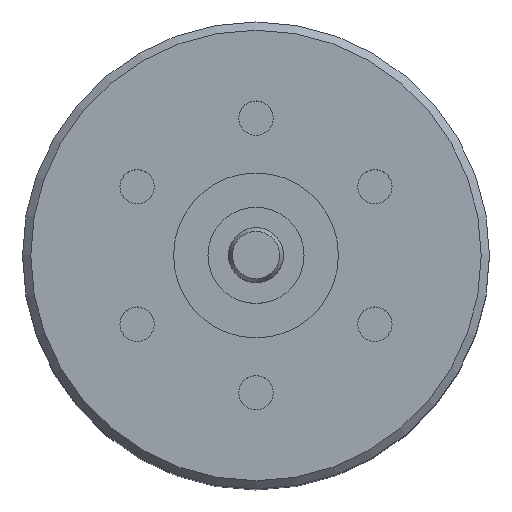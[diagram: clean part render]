
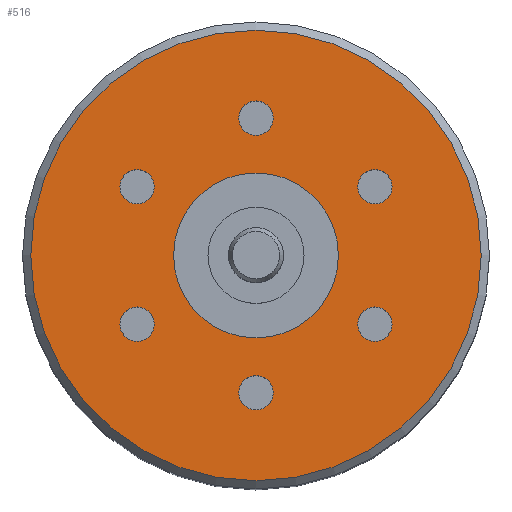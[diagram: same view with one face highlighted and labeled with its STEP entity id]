
A CAD part, top view. The second image highlights one B-rep face of the part: STEP entity #516.
In plain terms, the highlighted planar face has unit normal (0, 0, 1).
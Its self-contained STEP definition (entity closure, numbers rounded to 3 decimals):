
#516=ADVANCED_FACE('AS_FLANSCH',(#687,#688,#689,#690,#691,#692,#693,#694),
#621,.T.);
#621=PLANE('',#2057);
#687=FACE_BOUND('',#794,.T.);
#688=FACE_BOUND('',#795,.T.);
#689=FACE_BOUND('',#796,.T.);
#690=FACE_BOUND('',#797,.T.);
#691=FACE_BOUND('',#798,.T.);
#692=FACE_BOUND('',#799,.T.);
#693=FACE_BOUND('',#800,.T.);
#694=FACE_BOUND('',#801,.T.);
#794=EDGE_LOOP('',(#1081));
#795=EDGE_LOOP('',(#1082));
#796=EDGE_LOOP('',(#1083));
#797=EDGE_LOOP('',(#1084));
#798=EDGE_LOOP('',(#1085));
#799=EDGE_LOOP('',(#1086));
#800=EDGE_LOOP('',(#1087));
#801=EDGE_LOOP('',(#1088));
#1081=ORIENTED_EDGE('',*,*,#1743,.T.);
#1082=ORIENTED_EDGE('',*,*,#1744,.T.);
#1083=ORIENTED_EDGE('',*,*,#1745,.T.);
#1084=ORIENTED_EDGE('',*,*,#1746,.T.);
#1085=ORIENTED_EDGE('',*,*,#1747,.T.);
#1086=ORIENTED_EDGE('',*,*,#1748,.T.);
#1087=ORIENTED_EDGE('',*,*,#1749,.T.);
#1088=ORIENTED_EDGE('',*,*,#1750,.F.);
#1545=VERTEX_POINT('',#3186);
#1546=VERTEX_POINT('',#3188);
#1547=VERTEX_POINT('',#3190);
#1548=VERTEX_POINT('',#3192);
#1549=VERTEX_POINT('',#3194);
#1550=VERTEX_POINT('',#3196);
#1551=VERTEX_POINT('',#3198);
#1552=VERTEX_POINT('',#3200);
#1743=EDGE_CURVE('',#1545,#1545,#1915,.T.);
#1744=EDGE_CURVE('',#1546,#1546,#1916,.T.);
#1745=EDGE_CURVE('',#1547,#1547,#1917,.T.);
#1746=EDGE_CURVE('',#1548,#1548,#1918,.T.);
#1747=EDGE_CURVE('',#1549,#1549,#1919,.T.);
#1748=EDGE_CURVE('',#1550,#1550,#1920,.T.);
#1749=EDGE_CURVE('',#1551,#1551,#1921,.T.);
#1750=EDGE_CURVE('',#1552,#1552,#1922,.T.);
#1915=CIRCLE('',#2049,0.625);
#1916=CIRCLE('',#2050,0.625);
#1917=CIRCLE('',#2051,0.625);
#1918=CIRCLE('',#2052,0.625);
#1919=CIRCLE('',#2053,0.625);
#1920=CIRCLE('',#2054,0.625);
#1921=CIRCLE('',#2055,8.2);
#1922=CIRCLE('',#2056,3.);
#2049=AXIS2_PLACEMENT_3D('',#3185,#2411,#2412);
#2050=AXIS2_PLACEMENT_3D('',#3187,#2413,#2414);
#2051=AXIS2_PLACEMENT_3D('',#3189,#2415,#2416);
#2052=AXIS2_PLACEMENT_3D('',#3191,#2417,#2418);
#2053=AXIS2_PLACEMENT_3D('',#3193,#2419,#2420);
#2054=AXIS2_PLACEMENT_3D('',#3195,#2421,#2422);
#2055=AXIS2_PLACEMENT_3D('',#3197,#2423,#2424);
#2056=AXIS2_PLACEMENT_3D('',#3199,#2425,#2426);
#2057=AXIS2_PLACEMENT_3D('',#3201,#2427,#2428);
#2411=DIRECTION('',(0.,0.,-1.));
#2412=DIRECTION('',(-0.5,0.866,0.));
#2413=DIRECTION('',(0.,0.,-1.));
#2414=DIRECTION('',(0.5,0.866,0.));
#2415=DIRECTION('',(0.,0.,-1.));
#2416=DIRECTION('',(1.,0.,0.));
#2417=DIRECTION('',(0.,0.,-1.));
#2418=DIRECTION('',(0.5,-0.866,0.));
#2419=DIRECTION('',(0.,0.,-1.));
#2420=DIRECTION('',(-0.5,-0.866,0.));
#2421=DIRECTION('',(0.,0.,-1.));
#2422=DIRECTION('',(-1.,0.,0.));
#2423=DIRECTION('',(0.,0.,1.));
#2424=DIRECTION('',(1.,0.,0.));
#2425=DIRECTION('',(0.,0.,1.));
#2426=DIRECTION('',(1.,0.,0.));
#2427=DIRECTION('',(0.,0.,1.));
#2428=DIRECTION('',(1.,0.,0.));
#3185=CARTESIAN_POINT('',(4.33,2.5,0.));
#3186=CARTESIAN_POINT('',(4.018,3.041,0.));
#3187=CARTESIAN_POINT('',(4.33,-2.5,0.));
#3188=CARTESIAN_POINT('',(4.643,-1.959,0.));
#3189=CARTESIAN_POINT('',(0.,-5.,0.));
#3190=CARTESIAN_POINT('',(0.625,-5.,0.));
#3191=CARTESIAN_POINT('',(-4.33,-2.5,0.));
#3192=CARTESIAN_POINT('',(-4.018,-3.041,0.));
#3193=CARTESIAN_POINT('',(-4.33,2.5,0.));
#3194=CARTESIAN_POINT('',(-4.643,1.959,0.));
#3195=CARTESIAN_POINT('',(0.,5.,0.));
#3196=CARTESIAN_POINT('',(-0.625,5.,0.));
#3197=CARTESIAN_POINT('',(0.,0.,0.));
#3198=CARTESIAN_POINT('',(8.2,0.,0.));
#3199=CARTESIAN_POINT('',(0.,0.,
0.));
#3200=CARTESIAN_POINT('',(3.,0.,0.));
#3201=CARTESIAN_POINT('',(0.,0.,0.));
